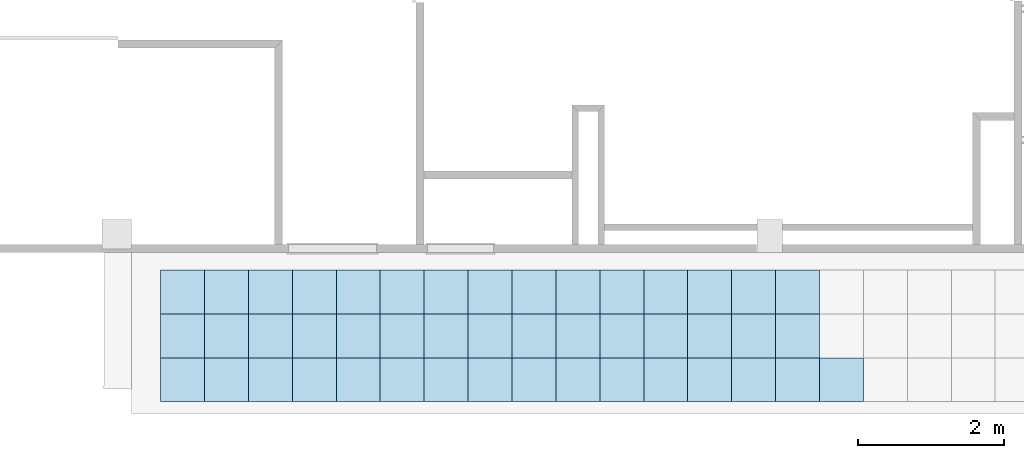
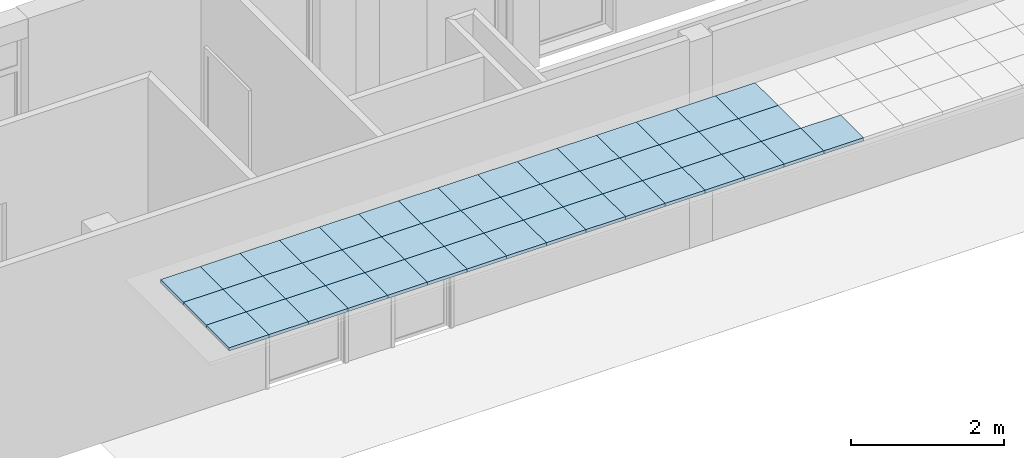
# One storey, part 14 of 60: 46 slabs.
"""IFC2X3 building model written with IfcOpenShell, lengths in millimetres."""

from ifc_helpers import new_model, entity, si_unit, converted_unit, derived_unit, money_unit, direction, frame, origin_with_axes, place, context, subcontext, project, spatial, polyline, outline, extrude, material, layer, layer_set, layer_usage, type_object, element, save


model = new_model("IFC2X3")

# Units and contexts
model_context = context("Model", 3, precision=0.01, world=origin_with_axes(), true_north=direction((0.0, 1.0)))
body_context = subcontext(model_context, "Body", "Model", "MODEL_VIEW")
ifc_project = project(units=[si_unit("LENGTHUNIT", "METRE", prefix="MILLI"), si_unit("AREAUNIT", "SQUARE_METRE"), si_unit("VOLUMEUNIT", "CUBIC_METRE"), converted_unit("PLANEANGLEUNIT", "DEGREE", entity("IfcPlaneAngleMeasure", 0.0174532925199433), si_unit("PLANEANGLEUNIT", "RADIAN"), dimensions=[0, 0, 0, 0, 0, 0, 0]), money_unit("USD"), converted_unit("TIMEUNIT", "Year", entity("IfcTimeMeasure", 31557600.0), si_unit("TIMEUNIT", "SECOND"), dimensions=[0, 0, 1, 0, 0, 0, 0]), si_unit("MASSUNIT", "GRAM", prefix="KILO"), si_unit("THERMODYNAMICTEMPERATUREUNIT", "DEGREE_CELSIUS"), si_unit("LUMINOUSINTENSITYUNIT", "LUMEN"), si_unit("ENERGYUNIT", "JOULE", prefix="MEGA"), derived_unit("THERMALCONDUCTANCEUNIT", [(si_unit("POWERUNIT", "WATT"), 1), (si_unit("LENGTHUNIT", "METRE"), -1), (si_unit("THERMODYNAMICTEMPERATUREUNIT", "KELVIN"), -1)]), derived_unit("SPECIFICHEATCAPACITYUNIT", [(si_unit("ENERGYUNIT", "JOULE"), 1), (si_unit("MASSUNIT", "GRAM", prefix="KILO"), -1), (si_unit("THERMODYNAMICTEMPERATUREUNIT", "KELVIN"), -1)]), derived_unit("MASSDENSITYUNIT", [(si_unit("MASSUNIT", "GRAM", prefix="KILO"), 1), (si_unit("VOLUMEUNIT", "CUBIC_METRE"), -1)])], contexts=[model_context])

# Site, building, storey
site_placement = place(None, origin_with_axes())
site = spatial("IfcSite", under=ifc_project, at=site_placement, Name="Sitio", CompositionType="ELEMENT")
building_placement = place(site_placement, origin_with_axes())
building = spatial("IfcBuilding", under=site, at=building_placement, Name="Construcción", CompositionType="ELEMENT")
storey_placement = place(building_placement, frame((0.0, 0.0, 3650.0), z_axis=(0.0, 0.0, 1.0), x_axis=(1.0, 0.0, 0.0)))
storey = spatial("IfcBuildingStorey", under=building, at=storey_placement, Name="PLANTA 2ª", CompositionType="ELEMENT", Elevation=3650.0)

# Slabs
ifc_material = material(Name="ARQ_CE217_Armstrong 60x60")
ifc_layer = layer(ifc_material, 50.0, ventilated="UNKNOWN")
ifc_layer_set = layer_set([ifc_layer], Name="ARQ_CE217_Armstrong 60x60 50")
ifc_layer_usage_1 = layer_usage(ifc_layer_set, "AXIS3", "NEGATIVE", 50.0)
slab_type = type_object("IfcSlabType", Name="ARQ_CE217_Armstrong 60x60 50", PredefinedType="NOTDEFINED")
slab_1_placement = place(storey_placement, frame((-27369.70328336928, -19121.97576450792, 2500.0), z_axis=(0.0, 0.0, 1.0), x_axis=(1.0, 0.0, 0.0)))
element("IfcSlab", 1, at=slab_1_placement, inside=storey, type_object=slab_type, material=ifc_layer_usage_1, Name="SLA - 026", PredefinedType="NOTDEFINED", context=body_context, shape_type="SweptSolid", body=[
    extrude(outline(polyline([(0.0, 0.0), (600.0000000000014, 0.0), (600.0000000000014, 600.0000000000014), (0.0, 600.0000000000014), (0.0, 0.0)])), frame((0.0, 0.0, -50.0), z_axis=(0.0, 0.0, 1.0), x_axis=(1.0, 0.0, 0.0)), (0.0, 0.0, 1.0), 50.0),
])
ifc_layer_usage_2 = layer_usage(ifc_layer_set, "AXIS3", "NEGATIVE", 50.0)
slab_2_placement = place(storey_placement, frame((-27369.70328336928, -18521.97576450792, 2500.0), z_axis=(0.0, 0.0, 1.0), x_axis=(1.0, 0.0, 0.0)))
element("IfcSlab", 2, at=slab_2_placement, inside=storey, type_object=slab_type, material=ifc_layer_usage_2, Name="SLA - 026", PredefinedType="NOTDEFINED", context=body_context, shape_type="SweptSolid", body=[
    extrude(outline(polyline([(0.0, 0.0), (600.0000000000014, 0.0), (600.0000000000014, 600.0000000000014), (0.0, 600.0000000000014), (0.0, 0.0)])), frame((0.0, 0.0, -50.0), z_axis=(0.0, 0.0, 1.0), x_axis=(1.0, 0.0, 0.0)), (0.0, 0.0, 1.0), 50.0),
])
ifc_layer_usage_3 = layer_usage(ifc_layer_set, "AXIS3", "NEGATIVE", 50.0)
slab_3_placement = place(storey_placement, frame((-27369.70328336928, -17921.97576450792, 2500.0), z_axis=(0.0, 0.0, 1.0), x_axis=(1.0, 0.0, 0.0)))
element("IfcSlab", 3, at=slab_3_placement, inside=storey, type_object=slab_type, material=ifc_layer_usage_3, Name="SLA - 026", PredefinedType="NOTDEFINED", context=body_context, shape_type="SweptSolid", body=[
    extrude(outline(polyline([(0.0, 0.0), (600.0000000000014, 0.0), (600.0000000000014, 600.0000000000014), (0.0, 600.0000000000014), (0.0, 0.0)])), frame((0.0, 0.0, -50.0), z_axis=(0.0, 0.0, 1.0), x_axis=(1.0, 0.0, 0.0)), (0.0, 0.0, 1.0), 50.0),
])
ifc_layer_usage_4 = layer_usage(ifc_layer_set, "AXIS3", "NEGATIVE", 50.0)
slab_4_placement = place(storey_placement, frame((-26769.70328336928, -19121.97576450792, 2500.0), z_axis=(0.0, 0.0, 1.0), x_axis=(1.0, 0.0, 0.0)))
element("IfcSlab", 4, at=slab_4_placement, inside=storey, type_object=slab_type, material=ifc_layer_usage_4, Name="SLA - 026", PredefinedType="NOTDEFINED", context=body_context, shape_type="SweptSolid", body=[
    extrude(outline(polyline([(0.0, 0.0), (600.0000000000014, 0.0), (600.0000000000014, 600.0000000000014), (0.0, 600.0000000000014), (0.0, 0.0)])), frame((0.0, 0.0, -50.0), z_axis=(0.0, 0.0, 1.0), x_axis=(1.0, 0.0, 0.0)), (0.0, 0.0, 1.0), 50.0),
])
ifc_layer_usage_5 = layer_usage(ifc_layer_set, "AXIS3", "NEGATIVE", 50.0)
slab_5_placement = place(storey_placement, frame((-26769.70328336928, -17921.97576450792, 2500.0), z_axis=(0.0, 0.0, 1.0), x_axis=(1.0, 0.0, 0.0)))
element("IfcSlab", 5, at=slab_5_placement, inside=storey, type_object=slab_type, material=ifc_layer_usage_5, Name="SLA - 026", PredefinedType="NOTDEFINED", context=body_context, shape_type="SweptSolid", body=[
    extrude(outline(polyline([(0.0, 0.0), (600.0000000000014, 0.0), (600.0000000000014, 600.0000000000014), (0.0, 600.0000000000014), (0.0, 0.0)])), frame((0.0, 0.0, -50.0), z_axis=(0.0, 0.0, 1.0), x_axis=(1.0, 0.0, 0.0)), (0.0, 0.0, 1.0), 50.0),
])
ifc_layer_usage_6 = layer_usage(ifc_layer_set, "AXIS3", "NEGATIVE", 50.0)
slab_6_placement = place(storey_placement, frame((-26169.70328336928, -19121.97576450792, 2500.0), z_axis=(0.0, 0.0, 1.0), x_axis=(1.0, 0.0, 0.0)))
element("IfcSlab", 6, at=slab_6_placement, inside=storey, type_object=slab_type, material=ifc_layer_usage_6, Name="SLA - 026", PredefinedType="NOTDEFINED", context=body_context, shape_type="SweptSolid", body=[
    extrude(outline(polyline([(0.0, 0.0), (600.0000000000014, 0.0), (600.0000000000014, 600.0000000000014), (0.0, 600.0000000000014), (0.0, 0.0)])), frame((0.0, 0.0, -50.0), z_axis=(0.0, 0.0, 1.0), x_axis=(1.0, 0.0, 0.0)), (0.0, 0.0, 1.0), 50.0),
])
ifc_layer_usage_7 = layer_usage(ifc_layer_set, "AXIS3", "NEGATIVE", 50.0)
slab_7_placement = place(storey_placement, frame((-26169.70328336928, -18521.97576450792, 2500.0), z_axis=(0.0, 0.0, 1.0), x_axis=(1.0, 0.0, 0.0)))
element("IfcSlab", 7, at=slab_7_placement, inside=storey, type_object=slab_type, material=ifc_layer_usage_7, Name="SLA - 026", PredefinedType="NOTDEFINED", context=body_context, shape_type="SweptSolid", body=[
    extrude(outline(polyline([(0.0, 0.0), (600.0000000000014, 0.0), (600.0000000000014, 600.0000000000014), (0.0, 600.0000000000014), (0.0, 0.0)])), frame((0.0, 0.0, -50.0), z_axis=(0.0, 0.0, 1.0), x_axis=(1.0, 0.0, 0.0)), (0.0, 0.0, 1.0), 50.0),
])
ifc_layer_usage_8 = layer_usage(ifc_layer_set, "AXIS3", "NEGATIVE", 50.0)
slab_8_placement = place(storey_placement, frame((-26769.70328336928, -18521.97576450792, 2500.0), z_axis=(0.0, 0.0, 1.0), x_axis=(1.0, 0.0, 0.0)))
element("IfcSlab", 8, at=slab_8_placement, inside=storey, type_object=slab_type, material=ifc_layer_usage_8, Name="SLA - 026", PredefinedType="NOTDEFINED", context=body_context, shape_type="SweptSolid", body=[
    extrude(outline(polyline([(0.0, 0.0), (600.0000000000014, 0.0), (600.0000000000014, 600.0000000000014), (0.0, 600.0000000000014), (0.0, 0.0)])), frame((0.0, 0.0, -50.0), z_axis=(0.0, 0.0, 1.0), x_axis=(1.0, 0.0, 0.0)), (0.0, 0.0, 1.0), 50.0),
])
ifc_layer_usage_9 = layer_usage(ifc_layer_set, "AXIS3", "NEGATIVE", 50.0)
slab_9_placement = place(storey_placement, frame((-26169.70328336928, -17921.97576450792, 2500.0), z_axis=(0.0, 0.0, 1.0), x_axis=(1.0, 0.0, 0.0)))
element("IfcSlab", 9, at=slab_9_placement, inside=storey, type_object=slab_type, material=ifc_layer_usage_9, Name="SLA - 026", PredefinedType="NOTDEFINED", context=body_context, shape_type="SweptSolid", body=[
    extrude(outline(polyline([(0.0, 0.0), (600.0000000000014, 0.0), (600.0000000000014, 600.0000000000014), (0.0, 600.0000000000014), (0.0, 0.0)])), frame((0.0, 0.0, -50.0), z_axis=(0.0, 0.0, 1.0), x_axis=(1.0, 0.0, 0.0)), (0.0, 0.0, 1.0), 50.0),
])
ifc_layer_usage_10 = layer_usage(ifc_layer_set, "AXIS3", "NEGATIVE", 50.0)
slab_10_placement = place(storey_placement, frame((-25569.70328336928, -18521.97576450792, 2500.0), z_axis=(0.0, 0.0, 1.0), x_axis=(1.0, 0.0, 0.0)))
element("IfcSlab", 10, at=slab_10_placement, inside=storey, type_object=slab_type, material=ifc_layer_usage_10, Name="SLA - 026", PredefinedType="NOTDEFINED", context=body_context, shape_type="SweptSolid", body=[
    extrude(outline(polyline([(0.0, 0.0), (600.0000000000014, 0.0), (600.0000000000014, 600.0000000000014), (0.0, 600.0000000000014), (0.0, 0.0)])), frame((0.0, 0.0, -50.0), z_axis=(0.0, 0.0, 1.0), x_axis=(1.0, 0.0, 0.0)), (0.0, 0.0, 1.0), 50.0),
])
ifc_layer_usage_11 = layer_usage(ifc_layer_set, "AXIS3", "NEGATIVE", 50.0)
slab_11_placement = place(storey_placement, frame((-25569.70328336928, -17921.97576450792, 2500.0), z_axis=(0.0, 0.0, 1.0), x_axis=(1.0, 0.0, 0.0)))
element("IfcSlab", 11, at=slab_11_placement, inside=storey, type_object=slab_type, material=ifc_layer_usage_11, Name="SLA - 026", PredefinedType="NOTDEFINED", context=body_context, shape_type="SweptSolid", body=[
    extrude(outline(polyline([(0.0, 0.0), (600.0000000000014, 0.0), (600.0000000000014, 600.0000000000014), (0.0, 600.0000000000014), (0.0, 0.0)])), frame((0.0, 0.0, -50.0), z_axis=(0.0, 0.0, 1.0), x_axis=(1.0, 0.0, 0.0)), (0.0, 0.0, 1.0), 50.0),
])
ifc_layer_usage_12 = layer_usage(ifc_layer_set, "AXIS3", "NEGATIVE", 50.0)
slab_12_placement = place(storey_placement, frame((-24969.70328336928, -19121.97576450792, 2500.0), z_axis=(0.0, 0.0, 1.0), x_axis=(1.0, 0.0, 0.0)))
element("IfcSlab", 12, at=slab_12_placement, inside=storey, type_object=slab_type, material=ifc_layer_usage_12, Name="SLA - 026", PredefinedType="NOTDEFINED", context=body_context, shape_type="SweptSolid", body=[
    extrude(outline(polyline([(0.0, 0.0), (600.0000000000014, 0.0), (600.0000000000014, 600.0000000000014), (0.0, 600.0000000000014), (0.0, 0.0)])), frame((0.0, 0.0, -50.0), z_axis=(0.0, 0.0, 1.0), x_axis=(1.0, 0.0, 0.0)), (0.0, 0.0, 1.0), 50.0),
])
ifc_layer_usage_13 = layer_usage(ifc_layer_set, "AXIS3", "NEGATIVE", 50.0)
slab_13_placement = place(storey_placement, frame((-24969.70328336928, -18521.97576450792, 2500.0), z_axis=(0.0, 0.0, 1.0), x_axis=(1.0, 0.0, 0.0)))
element("IfcSlab", 13, at=slab_13_placement, inside=storey, type_object=slab_type, material=ifc_layer_usage_13, Name="SLA - 026", PredefinedType="NOTDEFINED", context=body_context, shape_type="SweptSolid", body=[
    extrude(outline(polyline([(0.0, 0.0), (600.0000000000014, 0.0), (600.0000000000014, 600.0000000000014), (0.0, 600.0000000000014), (0.0, 0.0)])), frame((0.0, 0.0, -50.0), z_axis=(0.0, 0.0, 1.0), x_axis=(1.0, 0.0, 0.0)), (0.0, 0.0, 1.0), 50.0),
])
ifc_layer_usage_14 = layer_usage(ifc_layer_set, "AXIS3", "NEGATIVE", 50.0)
slab_14_placement = place(storey_placement, frame((-24969.70328336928, -17921.97576450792, 2500.0), z_axis=(0.0, 0.0, 1.0), x_axis=(1.0, 0.0, 0.0)))
element("IfcSlab", 14, at=slab_14_placement, inside=storey, type_object=slab_type, material=ifc_layer_usage_14, Name="SLA - 026", PredefinedType="NOTDEFINED", context=body_context, shape_type="SweptSolid", body=[
    extrude(outline(polyline([(0.0, 0.0), (600.0000000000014, 0.0), (600.0000000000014, 600.0000000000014), (0.0, 600.0000000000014), (0.0, 0.0)])), frame((0.0, 0.0, -50.0), z_axis=(0.0, 0.0, 1.0), x_axis=(1.0, 0.0, 0.0)), (0.0, 0.0, 1.0), 50.0),
])
ifc_layer_usage_15 = layer_usage(ifc_layer_set, "AXIS3", "NEGATIVE", 50.0)
slab_15_placement = place(storey_placement, frame((-24369.70328336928, -19121.97576450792, 2500.0), z_axis=(0.0, 0.0, 1.0), x_axis=(1.0, 0.0, 0.0)))
element("IfcSlab", 15, at=slab_15_placement, inside=storey, type_object=slab_type, material=ifc_layer_usage_15, Name="SLA - 026", PredefinedType="NOTDEFINED", context=body_context, shape_type="SweptSolid", body=[
    extrude(outline(polyline([(0.0, 0.0), (600.0000000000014, 0.0), (600.0000000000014, 600.0000000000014), (0.0, 600.0000000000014), (0.0, 0.0)])), frame((0.0, 0.0, -50.0), z_axis=(0.0, 0.0, 1.0), x_axis=(1.0, 0.0, 0.0)), (0.0, 0.0, 1.0), 50.0),
])
ifc_layer_usage_16 = layer_usage(ifc_layer_set, "AXIS3", "NEGATIVE", 50.0)
slab_16_placement = place(storey_placement, frame((-24369.70328336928, -18521.97576450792, 2500.0), z_axis=(0.0, 0.0, 1.0), x_axis=(1.0, 0.0, 0.0)))
element("IfcSlab", 16, at=slab_16_placement, inside=storey, type_object=slab_type, material=ifc_layer_usage_16, Name="SLA - 026", PredefinedType="NOTDEFINED", context=body_context, shape_type="SweptSolid", body=[
    extrude(outline(polyline([(0.0, 0.0), (600.0000000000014, 0.0), (600.0000000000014, 600.0000000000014), (0.0, 600.0000000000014), (0.0, 0.0)])), frame((0.0, 0.0, -50.0), z_axis=(0.0, 0.0, 1.0), x_axis=(1.0, 0.0, 0.0)), (0.0, 0.0, 1.0), 50.0),
])
ifc_layer_usage_17 = layer_usage(ifc_layer_set, "AXIS3", "NEGATIVE", 50.0)
slab_17_placement = place(storey_placement, frame((-24369.70328336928, -17921.97576450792, 2500.0), z_axis=(0.0, 0.0, 1.0), x_axis=(1.0, 0.0, 0.0)))
element("IfcSlab", 17, at=slab_17_placement, inside=storey, type_object=slab_type, material=ifc_layer_usage_17, Name="SLA - 026", PredefinedType="NOTDEFINED", context=body_context, shape_type="SweptSolid", body=[
    extrude(outline(polyline([(0.0, 0.0), (600.0000000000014, 0.0), (600.0000000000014, 600.0000000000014), (0.0, 600.0000000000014), (0.0, 0.0)])), frame((0.0, 0.0, -50.0), z_axis=(0.0, 0.0, 1.0), x_axis=(1.0, 0.0, 0.0)), (0.0, 0.0, 1.0), 50.0),
])
ifc_layer_usage_18 = layer_usage(ifc_layer_set, "AXIS3", "NEGATIVE", 50.0)
slab_18_placement = place(storey_placement, frame((-25569.70328336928, -19121.97576450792, 2500.0), z_axis=(0.0, 0.0, 1.0), x_axis=(1.0, 0.0, 0.0)))
element("IfcSlab", 18, at=slab_18_placement, inside=storey, type_object=slab_type, material=ifc_layer_usage_18, Name="SLA - 026", PredefinedType="NOTDEFINED", context=body_context, shape_type="SweptSolid", body=[
    extrude(outline(polyline([(0.0, 0.0), (600.0000000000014, 0.0), (600.0000000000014, 600.0000000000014), (0.0, 600.0000000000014), (0.0, 0.0)])), frame((0.0, 0.0, -50.0), z_axis=(0.0, 0.0, 1.0), x_axis=(1.0, 0.0, 0.0)), (0.0, 0.0, 1.0), 50.0),
])
ifc_layer_usage_19 = layer_usage(ifc_layer_set, "AXIS3", "NEGATIVE", 50.0)
slab_19_placement = place(storey_placement, frame((-23769.70328336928, -19121.97576450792, 2500.0), z_axis=(0.0, 0.0, 1.0), x_axis=(1.0, 0.0, 0.0)))
element("IfcSlab", 19, at=slab_19_placement, inside=storey, type_object=slab_type, material=ifc_layer_usage_19, Name="SLA - 026", PredefinedType="NOTDEFINED", context=body_context, shape_type="SweptSolid", body=[
    extrude(outline(polyline([(0.0, 0.0), (600.0000000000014, 0.0), (600.0000000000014, 600.0000000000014), (0.0, 600.0000000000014), (0.0, 0.0)])), frame((0.0, 0.0, -50.0), z_axis=(0.0, 0.0, 1.0), x_axis=(1.0, 0.0, 0.0)), (0.0, 0.0, 1.0), 50.0),
])
ifc_layer_usage_20 = layer_usage(ifc_layer_set, "AXIS3", "NEGATIVE", 50.0)
slab_20_placement = place(storey_placement, frame((-23769.70328336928, -18521.97576450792, 2500.0), z_axis=(0.0, 0.0, 1.0), x_axis=(1.0, 0.0, 0.0)))
element("IfcSlab", 20, at=slab_20_placement, inside=storey, type_object=slab_type, material=ifc_layer_usage_20, Name="SLA - 026", PredefinedType="NOTDEFINED", context=body_context, shape_type="SweptSolid", body=[
    extrude(outline(polyline([(0.0, 0.0), (600.0000000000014, 0.0), (600.0000000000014, 600.0000000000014), (0.0, 600.0000000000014), (0.0, 0.0)])), frame((0.0, 0.0, -50.0), z_axis=(0.0, 0.0, 1.0), x_axis=(1.0, 0.0, 0.0)), (0.0, 0.0, 1.0), 50.0),
])
ifc_layer_usage_21 = layer_usage(ifc_layer_set, "AXIS3", "NEGATIVE", 50.0)
slab_21_placement = place(storey_placement, frame((-23769.70328336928, -17921.97576450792, 2500.0), z_axis=(0.0, 0.0, 1.0), x_axis=(1.0, 0.0, 0.0)))
element("IfcSlab", 21, at=slab_21_placement, inside=storey, type_object=slab_type, material=ifc_layer_usage_21, Name="SLA - 026", PredefinedType="NOTDEFINED", context=body_context, shape_type="SweptSolid", body=[
    extrude(outline(polyline([(0.0, 0.0), (600.0000000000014, 0.0), (600.0000000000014, 600.0000000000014), (0.0, 600.0000000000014), (0.0, 0.0)])), frame((0.0, 0.0, -50.0), z_axis=(0.0, 0.0, 1.0), x_axis=(1.0, 0.0, 0.0)), (0.0, 0.0, 1.0), 50.0),
])
ifc_layer_usage_22 = layer_usage(ifc_layer_set, "AXIS3", "NEGATIVE", 50.0)
slab_22_placement = place(storey_placement, frame((-23169.70328336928, -18521.97576450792, 2500.0), z_axis=(0.0, 0.0, 1.0), x_axis=(1.0, 0.0, 0.0)))
element("IfcSlab", 22, at=slab_22_placement, inside=storey, type_object=slab_type, material=ifc_layer_usage_22, Name="SLA - 026", PredefinedType="NOTDEFINED", context=body_context, shape_type="SweptSolid", body=[
    extrude(outline(polyline([(0.0, 0.0), (600.0000000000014, 0.0), (600.0000000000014, 600.0000000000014), (0.0, 600.0000000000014), (0.0, 0.0)])), frame((0.0, 0.0, -50.0), z_axis=(0.0, 0.0, 1.0), x_axis=(1.0, 0.0, 0.0)), (0.0, 0.0, 1.0), 50.0),
])
ifc_layer_usage_23 = layer_usage(ifc_layer_set, "AXIS3", "NEGATIVE", 50.0)
slab_23_placement = place(storey_placement, frame((-23169.70328336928, -17921.97576450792, 2500.0), z_axis=(0.0, 0.0, 1.0), x_axis=(1.0, 0.0, 0.0)))
element("IfcSlab", 23, at=slab_23_placement, inside=storey, type_object=slab_type, material=ifc_layer_usage_23, Name="SLA - 026", PredefinedType="NOTDEFINED", context=body_context, shape_type="SweptSolid", body=[
    extrude(outline(polyline([(0.0, 0.0), (600.0000000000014, 0.0), (600.0000000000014, 600.0000000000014), (0.0, 600.0000000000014), (0.0, 0.0)])), frame((0.0, 0.0, -50.0), z_axis=(0.0, 0.0, 1.0), x_axis=(1.0, 0.0, 0.0)), (0.0, 0.0, 1.0), 50.0),
])
ifc_layer_usage_24 = layer_usage(ifc_layer_set, "AXIS3", "NEGATIVE", 50.0)
slab_24_placement = place(storey_placement, frame((-22569.70328336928, -19121.97576450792, 2500.0), z_axis=(0.0, 0.0, 1.0), x_axis=(1.0, 0.0, 0.0)))
element("IfcSlab", 24, at=slab_24_placement, inside=storey, type_object=slab_type, material=ifc_layer_usage_24, Name="SLA - 026", PredefinedType="NOTDEFINED", context=body_context, shape_type="SweptSolid", body=[
    extrude(outline(polyline([(0.0, 0.0), (600.0000000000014, 0.0), (600.0000000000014, 600.0000000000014), (0.0, 600.0000000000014), (0.0, 0.0)])), frame((0.0, 0.0, -50.0), z_axis=(0.0, 0.0, 1.0), x_axis=(1.0, 0.0, 0.0)), (0.0, 0.0, 1.0), 50.0),
])
ifc_layer_usage_25 = layer_usage(ifc_layer_set, "AXIS3", "NEGATIVE", 50.0)
slab_25_placement = place(storey_placement, frame((-22569.70328336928, -18521.97576450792, 2500.0), z_axis=(0.0, 0.0, 1.0), x_axis=(1.0, 0.0, 0.0)))
element("IfcSlab", 25, at=slab_25_placement, inside=storey, type_object=slab_type, material=ifc_layer_usage_25, Name="SLA - 026", PredefinedType="NOTDEFINED", context=body_context, shape_type="SweptSolid", body=[
    extrude(outline(polyline([(0.0, 0.0), (600.0000000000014, 0.0), (600.0000000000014, 600.0000000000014), (0.0, 600.0000000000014), (0.0, 0.0)])), frame((0.0, 0.0, -50.0), z_axis=(0.0, 0.0, 1.0), x_axis=(1.0, 0.0, 0.0)), (0.0, 0.0, 1.0), 50.0),
])
ifc_layer_usage_26 = layer_usage(ifc_layer_set, "AXIS3", "NEGATIVE", 50.0)
slab_26_placement = place(storey_placement, frame((-22569.70328336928, -17921.97576450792, 2500.0), z_axis=(0.0, 0.0, 1.0), x_axis=(1.0, 0.0, 0.0)))
element("IfcSlab", 26, at=slab_26_placement, inside=storey, type_object=slab_type, material=ifc_layer_usage_26, Name="SLA - 026", PredefinedType="NOTDEFINED", context=body_context, shape_type="SweptSolid", body=[
    extrude(outline(polyline([(0.0, 0.0), (600.0000000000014, 0.0), (600.0000000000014, 600.0000000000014), (0.0, 600.0000000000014), (0.0, 0.0)])), frame((0.0, 0.0, -50.0), z_axis=(0.0, 0.0, 1.0), x_axis=(1.0, 0.0, 0.0)), (0.0, 0.0, 1.0), 50.0),
])
ifc_layer_usage_27 = layer_usage(ifc_layer_set, "AXIS3", "NEGATIVE", 50.0)
slab_27_placement = place(storey_placement, frame((-23169.70328336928, -19121.97576450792, 2500.0), z_axis=(0.0, 0.0, 1.0), x_axis=(1.0, 0.0, 0.0)))
element("IfcSlab", 27, at=slab_27_placement, inside=storey, type_object=slab_type, material=ifc_layer_usage_27, Name="SLA - 026", PredefinedType="NOTDEFINED", context=body_context, shape_type="SweptSolid", body=[
    extrude(outline(polyline([(0.0, 0.0), (600.0000000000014, 0.0), (600.0000000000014, 600.0000000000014), (0.0, 600.0000000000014), (0.0, 0.0)])), frame((0.0, 0.0, -50.0), z_axis=(0.0, 0.0, 1.0), x_axis=(1.0, 0.0, 0.0)), (0.0, 0.0, 1.0), 50.0),
])
ifc_layer_usage_28 = layer_usage(ifc_layer_set, "AXIS3", "NEGATIVE", 50.0)
slab_28_placement = place(storey_placement, frame((-21969.70328336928, -19121.97576450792, 2500.0), z_axis=(0.0, 0.0, 1.0), x_axis=(1.0, 0.0, 0.0)))
element("IfcSlab", 28, at=slab_28_placement, inside=storey, type_object=slab_type, material=ifc_layer_usage_28, Name="SLA - 026", PredefinedType="NOTDEFINED", context=body_context, shape_type="SweptSolid", body=[
    extrude(outline(polyline([(0.0, 0.0), (600.0000000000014, 0.0), (600.0000000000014, 600.0000000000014), (0.0, 600.0000000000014), (0.0, 0.0)])), frame((0.0, 0.0, -50.0), z_axis=(0.0, 0.0, 1.0), x_axis=(1.0, 0.0, 0.0)), (0.0, 0.0, 1.0), 50.0),
])
ifc_layer_usage_29 = layer_usage(ifc_layer_set, "AXIS3", "NEGATIVE", 50.0)
slab_29_placement = place(storey_placement, frame((-21969.70328336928, -17921.97576450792, 2500.0), z_axis=(0.0, 0.0, 1.0), x_axis=(1.0, 0.0, 0.0)))
element("IfcSlab", 29, at=slab_29_placement, inside=storey, type_object=slab_type, material=ifc_layer_usage_29, Name="SLA - 026", PredefinedType="NOTDEFINED", context=body_context, shape_type="SweptSolid", body=[
    extrude(outline(polyline([(0.0, 0.0), (600.0000000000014, 0.0), (600.0000000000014, 600.0000000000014), (0.0, 600.0000000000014), (0.0, 0.0)])), frame((0.0, 0.0, -50.0), z_axis=(0.0, 0.0, 1.0), x_axis=(1.0, 0.0, 0.0)), (0.0, 0.0, 1.0), 50.0),
])
ifc_layer_usage_30 = layer_usage(ifc_layer_set, "AXIS3", "NEGATIVE", 50.0)
slab_30_placement = place(storey_placement, frame((-21969.70328336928, -18521.97576450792, 2500.0), z_axis=(0.0, 0.0, 1.0), x_axis=(1.0, 0.0, 0.0)))
element("IfcSlab", 30, at=slab_30_placement, inside=storey, type_object=slab_type, material=ifc_layer_usage_30, Name="SLA - 026", PredefinedType="NOTDEFINED", context=body_context, shape_type="SweptSolid", body=[
    extrude(outline(polyline([(0.0, 0.0), (600.0000000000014, 0.0), (600.0000000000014, 600.0000000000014), (0.0, 600.0000000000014), (0.0, 0.0)])), frame((0.0, 0.0, -50.0), z_axis=(0.0, 0.0, 1.0), x_axis=(1.0, 0.0, 0.0)), (0.0, 0.0, 1.0), 50.0),
])
ifc_layer_usage_31 = layer_usage(ifc_layer_set, "AXIS3", "NEGATIVE", 50.0)
slab_31_placement = place(storey_placement, frame((-21369.70328336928, -19121.97576450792, 2500.0), z_axis=(0.0, 0.0, 1.0), x_axis=(1.0, 0.0, 0.0)))
element("IfcSlab", 31, at=slab_31_placement, inside=storey, type_object=slab_type, material=ifc_layer_usage_31, Name="SLA - 026", PredefinedType="NOTDEFINED", context=body_context, shape_type="SweptSolid", body=[
    extrude(outline(polyline([(0.0, 0.0), (600.0000000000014, 0.0), (600.0000000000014, 600.0000000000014), (0.0, 600.0000000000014), (0.0, 0.0)])), frame((0.0, 0.0, -50.0), z_axis=(0.0, 0.0, 1.0), x_axis=(1.0, 0.0, 0.0)), (0.0, 0.0, 1.0), 50.0),
])
ifc_layer_usage_32 = layer_usage(ifc_layer_set, "AXIS3", "NEGATIVE", 50.0)
slab_32_placement = place(storey_placement, frame((-20769.70328336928, -19121.97576450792, 2500.0), z_axis=(0.0, 0.0, 1.0), x_axis=(1.0, 0.0, 0.0)))
element("IfcSlab", 32, at=slab_32_placement, inside=storey, type_object=slab_type, material=ifc_layer_usage_32, Name="SLA - 026", PredefinedType="NOTDEFINED", context=body_context, shape_type="SweptSolid", body=[
    extrude(outline(polyline([(0.0, 0.0), (600.0000000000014, 0.0), (600.0000000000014, 600.0000000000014), (0.0, 600.0000000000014), (0.0, 0.0)])), frame((0.0, 0.0, -50.0), z_axis=(0.0, 0.0, 1.0), x_axis=(1.0, 0.0, 0.0)), (0.0, 0.0, 1.0), 50.0),
])
ifc_layer_usage_33 = layer_usage(ifc_layer_set, "AXIS3", "NEGATIVE", 50.0)
slab_33_placement = place(storey_placement, frame((-20769.70328336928, -18521.97576450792, 2500.0), z_axis=(0.0, 0.0, 1.0), x_axis=(1.0, 0.0, 0.0)))
element("IfcSlab", 33, at=slab_33_placement, inside=storey, type_object=slab_type, material=ifc_layer_usage_33, Name="SLA - 026", PredefinedType="NOTDEFINED", context=body_context, shape_type="SweptSolid", body=[
    extrude(outline(polyline([(0.0, 0.0), (600.0000000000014, 0.0), (600.0000000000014, 600.0000000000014), (0.0, 600.0000000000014), (0.0, 0.0)])), frame((0.0, 0.0, -50.0), z_axis=(0.0, 0.0, 1.0), x_axis=(1.0, 0.0, 0.0)), (0.0, 0.0, 1.0), 50.0),
])
ifc_layer_usage_34 = layer_usage(ifc_layer_set, "AXIS3", "NEGATIVE", 50.0)
slab_34_placement = place(storey_placement, frame((-20769.70328336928, -17921.97576450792, 2500.0), z_axis=(0.0, 0.0, 1.0), x_axis=(1.0, 0.0, 0.0)))
element("IfcSlab", 34, at=slab_34_placement, inside=storey, type_object=slab_type, material=ifc_layer_usage_34, Name="SLA - 026", PredefinedType="NOTDEFINED", context=body_context, shape_type="SweptSolid", body=[
    extrude(outline(polyline([(0.0, 0.0), (600.0000000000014, 0.0), (600.0000000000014, 600.0000000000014), (0.0, 600.0000000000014), (0.0, 0.0)])), frame((0.0, 0.0, -50.0), z_axis=(0.0, 0.0, 1.0), x_axis=(1.0, 0.0, 0.0)), (0.0, 0.0, 1.0), 50.0),
])
ifc_layer_usage_35 = layer_usage(ifc_layer_set, "AXIS3", "NEGATIVE", 50.0)
slab_35_placement = place(storey_placement, frame((-20169.70328336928, -19121.97576450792, 2500.0), z_axis=(0.0, 0.0, 1.0), x_axis=(1.0, 0.0, 0.0)))
element("IfcSlab", 35, at=slab_35_placement, inside=storey, type_object=slab_type, material=ifc_layer_usage_35, Name="SLA - 026", PredefinedType="NOTDEFINED", context=body_context, shape_type="SweptSolid", body=[
    extrude(outline(polyline([(0.0, 0.0), (600.0000000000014, 0.0), (600.0000000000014, 600.0000000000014), (0.0, 600.0000000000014), (0.0, 0.0)])), frame((0.0, 0.0, -50.0), z_axis=(0.0, 0.0, 1.0), x_axis=(1.0, 0.0, 0.0)), (0.0, 0.0, 1.0), 50.0),
])
ifc_layer_usage_36 = layer_usage(ifc_layer_set, "AXIS3", "NEGATIVE", 50.0)
slab_36_placement = place(storey_placement, frame((-20169.70328336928, -18521.97576450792, 2500.0), z_axis=(0.0, 0.0, 1.0), x_axis=(1.0, 0.0, 0.0)))
element("IfcSlab", 36, at=slab_36_placement, inside=storey, type_object=slab_type, material=ifc_layer_usage_36, Name="SLA - 026", PredefinedType="NOTDEFINED", context=body_context, shape_type="SweptSolid", body=[
    extrude(outline(polyline([(0.0, 0.0), (600.0000000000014, 0.0), (600.0000000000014, 600.0000000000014), (0.0, 600.0000000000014), (0.0, 0.0)])), frame((0.0, 0.0, -50.0), z_axis=(0.0, 0.0, 1.0), x_axis=(1.0, 0.0, 0.0)), (0.0, 0.0, 1.0), 50.0),
])
ifc_layer_usage_37 = layer_usage(ifc_layer_set, "AXIS3", "NEGATIVE", 50.0)
slab_37_placement = place(storey_placement, frame((-20169.70328336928, -17921.97576450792, 2500.0), z_axis=(0.0, 0.0, 1.0), x_axis=(1.0, 0.0, 0.0)))
element("IfcSlab", 37, at=slab_37_placement, inside=storey, type_object=slab_type, material=ifc_layer_usage_37, Name="SLA - 026", PredefinedType="NOTDEFINED", context=body_context, shape_type="SweptSolid", body=[
    extrude(outline(polyline([(0.0, 0.0), (600.0000000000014, 0.0), (600.0000000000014, 600.0000000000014), (0.0, 600.0000000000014), (0.0, 0.0)])), frame((0.0, 0.0, -50.0), z_axis=(0.0, 0.0, 1.0), x_axis=(1.0, 0.0, 0.0)), (0.0, 0.0, 1.0), 50.0),
])
ifc_layer_usage_38 = layer_usage(ifc_layer_set, "AXIS3", "NEGATIVE", 50.0)
slab_38_placement = place(storey_placement, frame((-19569.70328336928, -19121.97576450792, 2500.0), z_axis=(0.0, 0.0, 1.0), x_axis=(1.0, 0.0, 0.0)))
element("IfcSlab", 38, at=slab_38_placement, inside=storey, type_object=slab_type, material=ifc_layer_usage_38, Name="SLA - 026", PredefinedType="NOTDEFINED", context=body_context, shape_type="SweptSolid", body=[
    extrude(outline(polyline([(0.0, 0.0), (600.0000000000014, 0.0), (600.0000000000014, 600.0000000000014), (0.0, 600.0000000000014), (0.0, 0.0)])), frame((0.0, 0.0, -50.0), z_axis=(0.0, 0.0, 1.0), x_axis=(1.0, 0.0, 0.0)), (0.0, 0.0, 1.0), 50.0),
])
ifc_layer_usage_39 = layer_usage(ifc_layer_set, "AXIS3", "NEGATIVE", 50.0)
slab_39_placement = place(storey_placement, frame((-21369.70328336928, -18521.97576450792, 2500.0), z_axis=(0.0, 0.0, 1.0), x_axis=(1.0, 0.0, 0.0)))
element("IfcSlab", 39, at=slab_39_placement, inside=storey, type_object=slab_type, material=ifc_layer_usage_39, Name="SLA - 026", PredefinedType="NOTDEFINED", context=body_context, shape_type="SweptSolid", body=[
    extrude(outline(polyline([(0.0, 0.0), (600.0000000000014, 0.0), (600.0000000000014, 600.0000000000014), (0.0, 600.0000000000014), (0.0, 0.0)])), frame((0.0, 0.0, -50.0), z_axis=(0.0, 0.0, 1.0), x_axis=(1.0, 0.0, 0.0)), (0.0, 0.0, 1.0), 50.0),
])
ifc_layer_usage_40 = layer_usage(ifc_layer_set, "AXIS3", "NEGATIVE", 50.0)
slab_40_placement = place(storey_placement, frame((-21369.70328336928, -17921.97576450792, 2500.0), z_axis=(0.0, 0.0, 1.0), x_axis=(1.0, 0.0, 0.0)))
element("IfcSlab", 40, at=slab_40_placement, inside=storey, type_object=slab_type, material=ifc_layer_usage_40, Name="SLA - 026", PredefinedType="NOTDEFINED", context=body_context, shape_type="SweptSolid", body=[
    extrude(outline(polyline([(0.0, 0.0), (600.0000000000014, 0.0), (600.0000000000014, 600.0000000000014), (0.0, 600.0000000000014), (0.0, 0.0)])), frame((0.0, 0.0, -50.0), z_axis=(0.0, 0.0, 1.0), x_axis=(1.0, 0.0, 0.0)), (0.0, 0.0, 1.0), 50.0),
])
ifc_layer_usage_41 = layer_usage(ifc_layer_set, "AXIS3", "NEGATIVE", 50.0)
slab_41_placement = place(storey_placement, frame((-19569.70328336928, -18521.97576450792, 2500.0), z_axis=(0.0, 0.0, 1.0), x_axis=(1.0, 0.0, 0.0)))
element("IfcSlab", 41, at=slab_41_placement, inside=storey, type_object=slab_type, material=ifc_layer_usage_41, Name="SLA - 026", PredefinedType="NOTDEFINED", context=body_context, shape_type="SweptSolid", body=[
    extrude(outline(polyline([(0.0, 0.0), (600.0000000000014, 0.0), (600.0000000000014, 600.0000000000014), (0.0, 600.0000000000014), (0.0, 0.0)])), frame((0.0, 0.0, -50.0), z_axis=(0.0, 0.0, 1.0), x_axis=(1.0, 0.0, 0.0)), (0.0, 0.0, 1.0), 50.0),
])
ifc_layer_usage_42 = layer_usage(ifc_layer_set, "AXIS3", "NEGATIVE", 50.0)
slab_42_placement = place(storey_placement, frame((-19569.70328336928, -17921.97576450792, 2500.0), z_axis=(0.0, 0.0, 1.0), x_axis=(1.0, 0.0, 0.0)))
element("IfcSlab", 42, at=slab_42_placement, inside=storey, type_object=slab_type, material=ifc_layer_usage_42, Name="SLA - 026", PredefinedType="NOTDEFINED", context=body_context, shape_type="SweptSolid", body=[
    extrude(outline(polyline([(0.0, 0.0), (600.0000000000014, 0.0), (600.0000000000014, 600.0000000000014), (0.0, 600.0000000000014), (0.0, 0.0)])), frame((0.0, 0.0, -50.0), z_axis=(0.0, 0.0, 1.0), x_axis=(1.0, 0.0, 0.0)), (0.0, 0.0, 1.0), 50.0),
])
ifc_layer_usage_43 = layer_usage(ifc_layer_set, "AXIS3", "NEGATIVE", 50.0)
slab_43_placement = place(storey_placement, frame((-18969.70328336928, -19121.97576450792, 2500.0), z_axis=(0.0, 0.0, 1.0), x_axis=(1.0, 0.0, 0.0)))
element("IfcSlab", 43, at=slab_43_placement, inside=storey, type_object=slab_type, material=ifc_layer_usage_43, Name="SLA - 026", PredefinedType="NOTDEFINED", context=body_context, shape_type="SweptSolid", body=[
    extrude(outline(polyline([(0.0, 0.0), (600.0000000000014, 0.0), (600.0000000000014, 600.0000000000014), (0.0, 600.0000000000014), (0.0, 0.0)])), frame((0.0, 0.0, -50.0), z_axis=(0.0, 0.0, 1.0), x_axis=(1.0, 0.0, 0.0)), (0.0, 0.0, 1.0), 50.0),
])
ifc_layer_usage_44 = layer_usage(ifc_layer_set, "AXIS3", "NEGATIVE", 50.0)
slab_44_placement = place(storey_placement, frame((-18969.70328336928, -18521.97576450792, 2500.0), z_axis=(0.0, 0.0, 1.0), x_axis=(1.0, 0.0, 0.0)))
element("IfcSlab", 44, at=slab_44_placement, inside=storey, type_object=slab_type, material=ifc_layer_usage_44, Name="SLA - 026", PredefinedType="NOTDEFINED", context=body_context, shape_type="SweptSolid", body=[
    extrude(outline(polyline([(0.0, 0.0), (600.0000000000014, 0.0), (600.0000000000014, 600.0000000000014), (0.0, 600.0000000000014), (0.0, 0.0)])), frame((0.0, 0.0, -50.0), z_axis=(0.0, 0.0, 1.0), x_axis=(1.0, 0.0, 0.0)), (0.0, 0.0, 1.0), 50.0),
])
ifc_layer_usage_45 = layer_usage(ifc_layer_set, "AXIS3", "NEGATIVE", 50.0)
slab_45_placement = place(storey_placement, frame((-18969.70328336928, -17921.97576450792, 2500.0), z_axis=(0.0, 0.0, 1.0), x_axis=(1.0, 0.0, 0.0)))
element("IfcSlab", 45, at=slab_45_placement, inside=storey, type_object=slab_type, material=ifc_layer_usage_45, Name="SLA - 026", PredefinedType="NOTDEFINED", context=body_context, shape_type="SweptSolid", body=[
    extrude(outline(polyline([(0.0, 0.0), (600.0000000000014, 0.0), (600.0000000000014, 600.0000000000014), (0.0, 600.0000000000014), (0.0, 0.0)])), frame((0.0, 0.0, -50.0), z_axis=(0.0, 0.0, 1.0), x_axis=(1.0, 0.0, 0.0)), (0.0, 0.0, 1.0), 50.0),
])
ifc_layer_usage_46 = layer_usage(ifc_layer_set, "AXIS3", "NEGATIVE", 50.0)
slab_46_placement = place(storey_placement, frame((-18369.70328336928, -19121.97576450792, 2500.0), z_axis=(0.0, 0.0, 1.0), x_axis=(1.0, 0.0, 0.0)))
element("IfcSlab", 46, at=slab_46_placement, inside=storey, type_object=slab_type, material=ifc_layer_usage_46, Name="SLA - 026", PredefinedType="NOTDEFINED", context=body_context, shape_type="SweptSolid", body=[
    extrude(outline(polyline([(0.0, 0.0), (600.0000000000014, 0.0), (600.0000000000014, 600.0000000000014), (0.0, 600.0000000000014), (0.0, 0.0)])), frame((0.0, 0.0, -50.0), z_axis=(0.0, 0.0, 1.0), x_axis=(1.0, 0.0, 0.0)), (0.0, 0.0, 1.0), 50.0),
])

save(model, "model.ifc")
